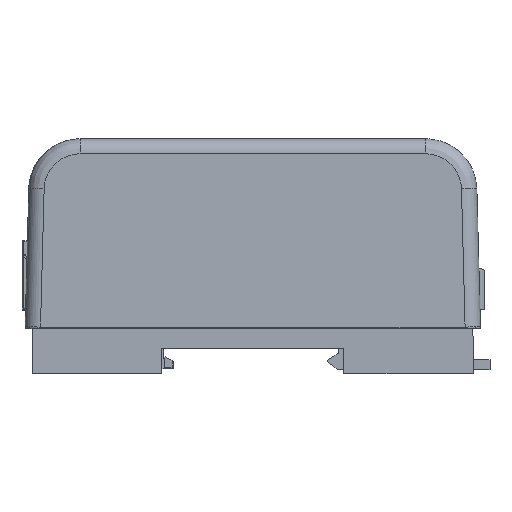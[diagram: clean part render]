
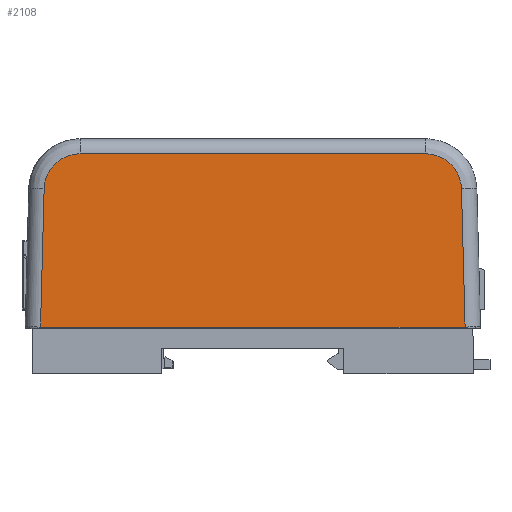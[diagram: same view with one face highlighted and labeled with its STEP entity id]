
A CAD part, front view. The second image highlights one B-rep face of the part: STEP entity #2108.
In plain terms, the highlighted planar face has unit normal (0, -1, 0.026).
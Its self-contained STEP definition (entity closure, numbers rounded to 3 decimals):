
#2108=ADVANCED_FACE('',(#23896),#226606,.T.);
#23896=FACE_OUTER_BOUND('',#45698,.T.);
#45698=EDGE_LOOP('',(#68824,#68825,#68826,#68827,#68828,#68829));
#68824=ORIENTED_EDGE('',*,*,#136230,.T.);
#68825=ORIENTED_EDGE('',*,*,#136184,.F.);
#68826=ORIENTED_EDGE('',*,*,#136213,.F.);
#68827=ORIENTED_EDGE('',*,*,#136217,.F.);
#68828=ORIENTED_EDGE('',*,*,#136199,.F.);
#68829=ORIENTED_EDGE('',*,*,#136218,.T.);
#136184=EDGE_CURVE('',#211127,#211128,#174179,.T.);
#136199=EDGE_CURVE('',#211141,#211139,#174182,.T.);
#136213=EDGE_CURVE('',#211137,#211127,#174188,.T.);
#136217=EDGE_CURVE('',#211139,#211137,#173048,.T.);
#136218=EDGE_CURVE('',#211141,#211150,#173049,.T.);
#136230=EDGE_CURVE('',#211150,#211128,#174192,.T.);
#173048=(
BOUNDED_CURVE()
B_SPLINE_CURVE(3,(#303623,#303624,#303625,#303626),.UNSPECIFIED.,.F.,.F.)
B_SPLINE_CURVE_WITH_KNOTS((4,4),(-12.05,0.),.UNSPECIFIED.)
CURVE()
GEOMETRIC_REPRESENTATION_ITEM()
RATIONAL_B_SPLINE_CURVE((1.,0.811,0.811,1.))
REPRESENTATION_ITEM('')
);
#173049=(
BOUNDED_CURVE()
B_SPLINE_CURVE(3,(#303627,#303628,#303629,#303630),.UNSPECIFIED.,.F.,.F.)
B_SPLINE_CURVE_WITH_KNOTS((4,4),(0.,12.05),.UNSPECIFIED.)
CURVE()
GEOMETRIC_REPRESENTATION_ITEM()
RATIONAL_B_SPLINE_CURVE((1.,0.811,0.811,1.))
REPRESENTATION_ITEM('')
);
#174179=B_SPLINE_CURVE_WITH_KNOTS('',1,(#303512,#303513),.UNSPECIFIED.,
 .F.,.F.,(2,2),(0.,82.786),.UNSPECIFIED.);
#174182=B_SPLINE_CURVE_WITH_KNOTS('',1,(#303569,#303570),.UNSPECIFIED.,
 .F.,.F.,(2,2),(0.,67.379),.UNSPECIFIED.);
#174188=B_SPLINE_CURVE_WITH_KNOTS('',1,(#303611,#303612),.UNSPECIFIED.,
 .F.,.F.,(2,2),(0.,26.972),.UNSPECIFIED.);
#174192=B_SPLINE_CURVE_WITH_KNOTS('',1,(#303672,#303673),.UNSPECIFIED.,
 .F.,.F.,(2,2),(-26.972,0.),.UNSPECIFIED.);
#211127=VERTEX_POINT('',#300041);
#211128=VERTEX_POINT('',#300042);
#211137=VERTEX_POINT('',#300051);
#211139=VERTEX_POINT('',#300053);
#211141=VERTEX_POINT('',#300055);
#211150=VERTEX_POINT('',#300064);
#226606=PLANE('',#248455);
#248455=AXIS2_PLACEMENT_3D('',#293845,#269941,$);
#269941=DIRECTION('',(0.,-1.,0.026));
#293845=CARTESIAN_POINT('',(-30.105,0.881,46.267));
#300041=CARTESIAN_POINT('',(60.962,-0.092,9.117));
#300042=CARTESIAN_POINT('',(-21.824,-0.092,9.117));
#300051=CARTESIAN_POINT('',(60.256,0.614,36.071));
#300053=CARTESIAN_POINT('',(53.259,0.792,42.888));
#300055=CARTESIAN_POINT('',(-14.12,0.792,42.888));
#300064=CARTESIAN_POINT('',(-21.118,0.614,36.071));
#303512=CARTESIAN_POINT('',(60.962,-0.092,9.117));
#303513=CARTESIAN_POINT('',(-21.824,-0.092,9.117));
#303569=CARTESIAN_POINT('',(-14.12,0.792,42.888));
#303570=CARTESIAN_POINT('',(53.259,0.792,42.888));
#303611=CARTESIAN_POINT('',(60.256,0.614,36.071));
#303612=CARTESIAN_POINT('',(60.962,-0.092,9.117));
#303623=CARTESIAN_POINT('',(53.259,0.792,42.888));
#303624=CARTESIAN_POINT('',(57.275,0.792,42.888));
#303625=CARTESIAN_POINT('',(60.151,0.719,40.085));
#303626=CARTESIAN_POINT('',(60.256,0.614,36.071));
#303627=CARTESIAN_POINT('',(-14.12,0.792,42.888));
#303628=CARTESIAN_POINT('',(-18.136,0.792,42.888));
#303629=CARTESIAN_POINT('',(-21.013,0.719,40.085));
#303630=CARTESIAN_POINT('',(-21.118,0.614,36.071));
#303672=CARTESIAN_POINT('',(-21.118,0.614,36.071));
#303673=CARTESIAN_POINT('',(-21.824,-0.092,9.117));
